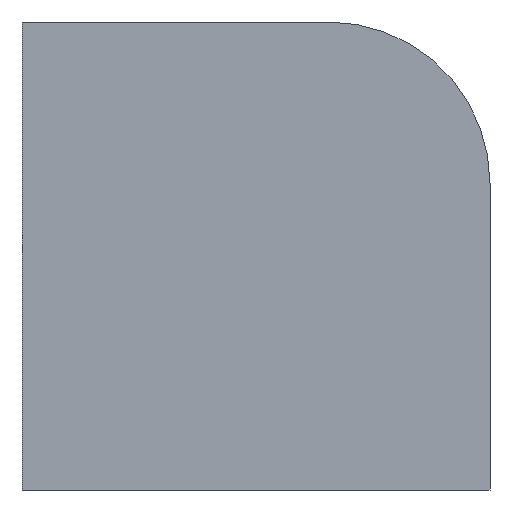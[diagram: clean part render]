
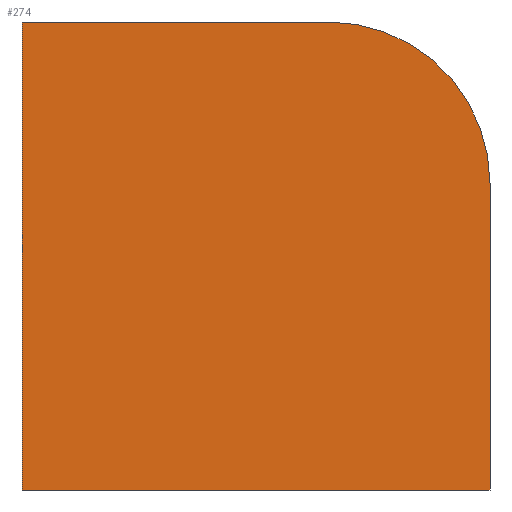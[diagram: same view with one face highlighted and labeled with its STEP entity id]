
A CAD part, left-side view. The second image highlights one B-rep face of the part: STEP entity #274.
In plain terms, the highlighted planar face has unit normal (-1, 0, 0).
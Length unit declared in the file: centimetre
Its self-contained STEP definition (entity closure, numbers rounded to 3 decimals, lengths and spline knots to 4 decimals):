
#24 = FACE_OUTER_BOUND ( 'NONE', #213, .T. ) ;
#26 = CARTESIAN_POINT ( 'NONE',  ( 0., 0., 1000. ) ) ;
#33 = VECTOR ( 'NONE', #174, 100. ) ;
#46 = VECTOR ( 'NONE', #55, 100. ) ;
#55 = DIRECTION ( 'NONE',  ( 0., 0., -1. ) ) ;
#82 = DIRECTION ( 'NONE',  ( 0., 0., -1. ) ) ;
#99 = VERTEX_POINT ( 'NONE', #288 ) ;
#100 = CARTESIAN_POINT ( 'NONE',  ( 0., 1000., 1000. ) ) ;
#107 = CARTESIAN_POINT ( 'NONE',  ( 0., 345.2182, 1000. ) ) ;
#109 = CARTESIAN_POINT ( 'NONE',  ( 0., 1000., 1000. ) ) ;
#111 = CARTESIAN_POINT ( 'NONE',  ( 0., 0., 0. ) ) ;
#115 = LINE ( 'NONE', #233, #144 ) ;
#129 = VECTOR ( 'NONE', #212, 100. ) ;
#138 = EDGE_CURVE ( 'NONE', #99, #216, #315, .T. ) ;
#140 = EDGE_CURVE ( 'NONE', #99, #350, #248, .T. ) ;
#141 = DIRECTION ( 'NONE',  ( 1., 0., 0. ) ) ;
#144 = VECTOR ( 'NONE', #225, 100. ) ;
#152 = ORIENTED_EDGE ( 'NONE', *, *, #172, .T. ) ;
#166 = EDGE_CURVE ( 'NONE', #353, #216, #115, .T. ) ;
#167 = ORIENTED_EDGE ( 'NONE', *, *, #307, .F. ) ;
#172 = EDGE_CURVE ( 'NONE', #327, #353, #266, .T. ) ;
#174 = DIRECTION ( 'NONE',  ( 0., 0., -1. ) ) ;
#179 = ORIENTED_EDGE ( 'NONE', *, *, #138, .F. ) ;
#192 = PLANE ( 'NONE',  #230 ) ;
#204 = CARTESIAN_POINT ( 'NONE',  ( 0., 1000., 1000. ) ) ;
#212 = DIRECTION ( 'NONE',  ( 0., -1., 0. ) ) ;
#213 = EDGE_LOOP ( 'NONE', ( #179, #312, #167, #152, #293 ) ) ;
#216 = VERTEX_POINT ( 'NONE', #111 ) ;
#225 = DIRECTION ( 'NONE',  ( 0., -1., 0. ) ) ;
#230 = AXIS2_PLACEMENT_3D ( 'NONE', #109, #141, #82 ) ;
#233 = CARTESIAN_POINT ( 'NONE',  ( 0., 1000., 0. ) ) ;
#239 = DIRECTION ( 'NONE',  ( -1., 0., 0. ) ) ;
#248 = CIRCLE ( 'NONE', #299, 345.2182 ) ;
#266 = LINE ( 'NONE', #358, #46 ) ;
#274 = ADVANCED_FACE ( 'NONE', ( #24 ), #192, .F. ) ;
#288 = CARTESIAN_POINT ( 'NONE',  ( 0., 0., 654.7818 ) ) ;
#289 = CARTESIAN_POINT ( 'NONE',  ( 0., 345.2182, 654.7818 ) ) ;
#293 = ORIENTED_EDGE ( 'NONE', *, *, #166, .T. ) ;
#298 = CARTESIAN_POINT ( 'NONE',  ( 0., 1000., 0. ) ) ;
#299 = AXIS2_PLACEMENT_3D ( 'NONE', #289, #239, #355 ) ;
#307 = EDGE_CURVE ( 'NONE', #327, #350, #357, .T. ) ;
#312 = ORIENTED_EDGE ( 'NONE', *, *, #140, .T. ) ;
#315 = LINE ( 'NONE', #26, #33 ) ;
#327 = VERTEX_POINT ( 'NONE', #204 ) ;
#350 = VERTEX_POINT ( 'NONE', #107 ) ;
#353 = VERTEX_POINT ( 'NONE', #298 ) ;
#355 = DIRECTION ( 'NONE',  ( 0., 0., -1. ) ) ;
#357 = LINE ( 'NONE', #100, #129 ) ;
#358 = CARTESIAN_POINT ( 'NONE',  ( 0., 1000., 1000. ) ) ;
